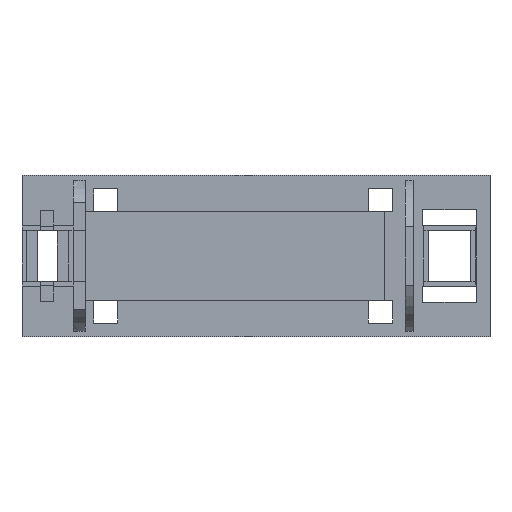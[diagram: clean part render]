
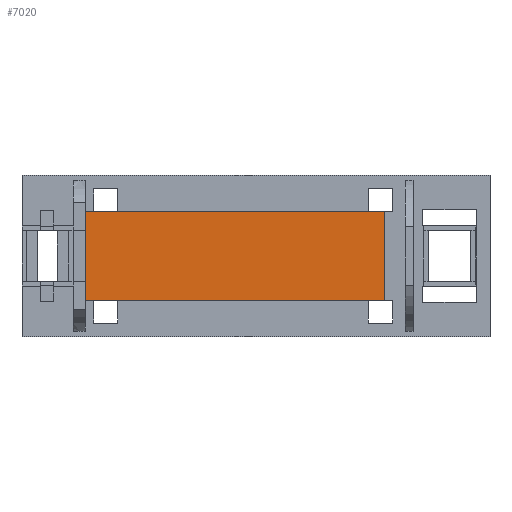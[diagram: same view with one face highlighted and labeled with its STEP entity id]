
A CAD part, top view. The second image highlights one B-rep face of the part: STEP entity #7020.
In plain terms, the highlighted planar face has unit normal (0, 0, 1).
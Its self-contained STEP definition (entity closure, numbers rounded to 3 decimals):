
#6617 = PLANE('',#6618);
#6618 = AXIS2_PLACEMENT_3D('',#6619,#6620,#6621);
#6619 = CARTESIAN_POINT('',(42.39,-11.,6.));
#6620 = DIRECTION('',(1.,0.,-0.));
#6621 = DIRECTION('',(0.,0.,1.));
#6687 = PLANE('',#6688);
#6688 = AXIS2_PLACEMENT_3D('',#6689,#6690,#6691);
#6689 = CARTESIAN_POINT('',(42.39,-11.,6.));
#6690 = DIRECTION('',(-0.,1.,0.));
#6691 = DIRECTION('',(0.,0.,1.));
#6715 = PLANE('',#6716);
#6716 = AXIS2_PLACEMENT_3D('',#6717,#6718,#6719);
#6717 = CARTESIAN_POINT('',(116.11,-11.,6.));
#6718 = DIRECTION('',(1.,0.,-0.));
#6719 = DIRECTION('',(0.,0.,1.));
#6743 = PLANE('',#6744);
#6744 = AXIS2_PLACEMENT_3D('',#6745,#6746,#6747);
#6745 = CARTESIAN_POINT('',(42.39,11.,6.));
#6746 = DIRECTION('',(-0.,1.,0.));
#6747 = DIRECTION('',(0.,0.,1.));
#6949 = VERTEX_POINT('',#6950);
#6950 = CARTESIAN_POINT('',(116.11,-11.,7.2));
#6973 = VERTEX_POINT('',#6974);
#6974 = CARTESIAN_POINT('',(116.11,11.,7.2));
#6995 = EDGE_CURVE('',#6949,#6973,#6996,.T.);
#6996 = SURFACE_CURVE('',#6997,(#7001,#7008),.PCURVE_S1.);
#6997 = LINE('',#6998,#6999);
#6998 = CARTESIAN_POINT('',(116.11,-11.,7.2));
#6999 = VECTOR('',#7000,1.);
#7000 = DIRECTION('',(-0.,1.,0.));
#7001 = PCURVE('',#6715,#7002);
#7002 = DEFINITIONAL_REPRESENTATION('',(#7003),#7007);
#7003 = LINE('',#7004,#7005);
#7004 = CARTESIAN_POINT('',(1.2,0.));
#7005 = VECTOR('',#7006,1.);
#7006 = DIRECTION('',(0.,-1.));
#7007 = ( GEOMETRIC_REPRESENTATION_CONTEXT(2) 
PARAMETRIC_REPRESENTATION_CONTEXT() REPRESENTATION_CONTEXT('2D SPACE',''
  ) );
#7008 = PCURVE('',#7009,#7014);
#7009 = PLANE('',#7010);
#7010 = AXIS2_PLACEMENT_3D('',#7011,#7012,#7013);
#7011 = CARTESIAN_POINT('',(42.39,-11.,7.2));
#7012 = DIRECTION('',(0.,0.,1.));
#7013 = DIRECTION('',(1.,0.,-0.));
#7014 = DEFINITIONAL_REPRESENTATION('',(#7015),#7019);
#7015 = LINE('',#7016,#7017);
#7016 = CARTESIAN_POINT('',(73.72,0.));
#7017 = VECTOR('',#7018,1.);
#7018 = DIRECTION('',(0.,1.));
#7019 = ( GEOMETRIC_REPRESENTATION_CONTEXT(2) 
PARAMETRIC_REPRESENTATION_CONTEXT() REPRESENTATION_CONTEXT('2D SPACE',''
  ) );
#7020 = ADVANCED_FACE('',(#7021),#7009,.T.);
#7021 = FACE_BOUND('',#7022,.T.);
#7022 = EDGE_LOOP('',(#7023,#7048,#7069,#7070));
#7023 = ORIENTED_EDGE('',*,*,#7024,.F.);
#7024 = EDGE_CURVE('',#7025,#7027,#7029,.T.);
#7025 = VERTEX_POINT('',#7026);
#7026 = CARTESIAN_POINT('',(42.39,-11.,7.2));
#7027 = VERTEX_POINT('',#7028);
#7028 = CARTESIAN_POINT('',(42.39,11.,7.2));
#7029 = SURFACE_CURVE('',#7030,(#7034,#7041),.PCURVE_S1.);
#7030 = LINE('',#7031,#7032);
#7031 = CARTESIAN_POINT('',(42.39,-11.,7.2));
#7032 = VECTOR('',#7033,1.);
#7033 = DIRECTION('',(-0.,1.,0.));
#7034 = PCURVE('',#7009,#7035);
#7035 = DEFINITIONAL_REPRESENTATION('',(#7036),#7040);
#7036 = LINE('',#7037,#7038);
#7037 = CARTESIAN_POINT('',(0.,0.));
#7038 = VECTOR('',#7039,1.);
#7039 = DIRECTION('',(0.,1.));
#7040 = ( GEOMETRIC_REPRESENTATION_CONTEXT(2) 
PARAMETRIC_REPRESENTATION_CONTEXT() REPRESENTATION_CONTEXT('2D SPACE',''
  ) );
#7041 = PCURVE('',#6617,#7042);
#7042 = DEFINITIONAL_REPRESENTATION('',(#7043),#7047);
#7043 = LINE('',#7044,#7045);
#7044 = CARTESIAN_POINT('',(1.2,0.));
#7045 = VECTOR('',#7046,1.);
#7046 = DIRECTION('',(0.,-1.));
#7047 = ( GEOMETRIC_REPRESENTATION_CONTEXT(2) 
PARAMETRIC_REPRESENTATION_CONTEXT() REPRESENTATION_CONTEXT('2D SPACE',''
  ) );
#7048 = ORIENTED_EDGE('',*,*,#7049,.T.);
#7049 = EDGE_CURVE('',#7025,#6949,#7050,.T.);
#7050 = SURFACE_CURVE('',#7051,(#7055,#7062),.PCURVE_S1.);
#7051 = LINE('',#7052,#7053);
#7052 = CARTESIAN_POINT('',(42.39,-11.,7.2));
#7053 = VECTOR('',#7054,1.);
#7054 = DIRECTION('',(1.,0.,-0.));
#7055 = PCURVE('',#7009,#7056);
#7056 = DEFINITIONAL_REPRESENTATION('',(#7057),#7061);
#7057 = LINE('',#7058,#7059);
#7058 = CARTESIAN_POINT('',(0.,0.));
#7059 = VECTOR('',#7060,1.);
#7060 = DIRECTION('',(1.,0.));
#7061 = ( GEOMETRIC_REPRESENTATION_CONTEXT(2) 
PARAMETRIC_REPRESENTATION_CONTEXT() REPRESENTATION_CONTEXT('2D SPACE',''
  ) );
#7062 = PCURVE('',#6687,#7063);
#7063 = DEFINITIONAL_REPRESENTATION('',(#7064),#7068);
#7064 = LINE('',#7065,#7066);
#7065 = CARTESIAN_POINT('',(1.2,0.));
#7066 = VECTOR('',#7067,1.);
#7067 = DIRECTION('',(0.,1.));
#7068 = ( GEOMETRIC_REPRESENTATION_CONTEXT(2) 
PARAMETRIC_REPRESENTATION_CONTEXT() REPRESENTATION_CONTEXT('2D SPACE',''
  ) );
#7069 = ORIENTED_EDGE('',*,*,#6995,.T.);
#7070 = ORIENTED_EDGE('',*,*,#7071,.F.);
#7071 = EDGE_CURVE('',#7027,#6973,#7072,.T.);
#7072 = SURFACE_CURVE('',#7073,(#7077,#7084),.PCURVE_S1.);
#7073 = LINE('',#7074,#7075);
#7074 = CARTESIAN_POINT('',(42.39,11.,7.2));
#7075 = VECTOR('',#7076,1.);
#7076 = DIRECTION('',(1.,0.,-0.));
#7077 = PCURVE('',#7009,#7078);
#7078 = DEFINITIONAL_REPRESENTATION('',(#7079),#7083);
#7079 = LINE('',#7080,#7081);
#7080 = CARTESIAN_POINT('',(0.,22.));
#7081 = VECTOR('',#7082,1.);
#7082 = DIRECTION('',(1.,0.));
#7083 = ( GEOMETRIC_REPRESENTATION_CONTEXT(2) 
PARAMETRIC_REPRESENTATION_CONTEXT() REPRESENTATION_CONTEXT('2D SPACE',''
  ) );
#7084 = PCURVE('',#6743,#7085);
#7085 = DEFINITIONAL_REPRESENTATION('',(#7086),#7090);
#7086 = LINE('',#7087,#7088);
#7087 = CARTESIAN_POINT('',(1.2,0.));
#7088 = VECTOR('',#7089,1.);
#7089 = DIRECTION('',(0.,1.));
#7090 = ( GEOMETRIC_REPRESENTATION_CONTEXT(2) 
PARAMETRIC_REPRESENTATION_CONTEXT() REPRESENTATION_CONTEXT('2D SPACE',''
  ) );
